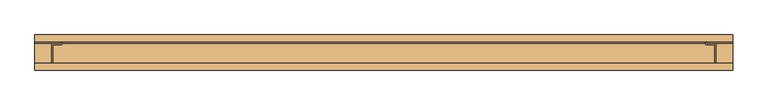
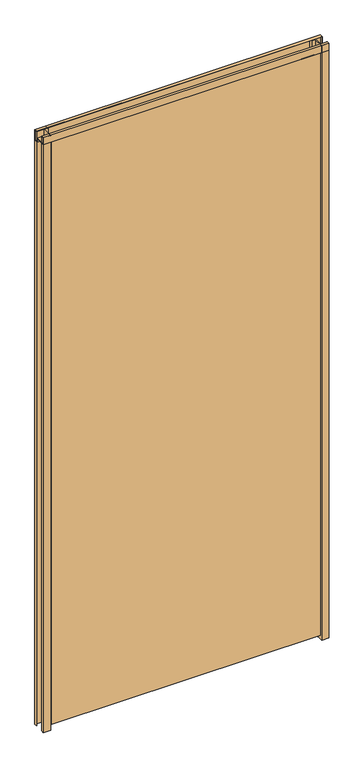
"""IFC4 building model written with IfcOpenShell, lengths in millimetres: door geometry, Puerta Metalica-lisa : PH2-Puerta Metalica lisa simple."""

from ifc_helpers import new_model, si_unit, frame, origin, origin_with_axes, place, context, project, spatial, polyline, outline, extrude, source, transform, mapped, element, save


def door_b94a3739(model_context):
    return source(origin(), model_context, "Body", "SweptSolid", [
        extrude(outline(polyline([(-15.4, 2200.0), (-15.4, 2199.0), (-24.4, 2199.0), (-24.4, 2175.6), (12.6, 2175.6), (12.6, 2162.9), (24.4, 2162.9), (24.4, 2199.0), (15.4, 2199.0), (15.4, 2200.0), (25.4, 2200.0), (25.4, 2161.9), (11.6, 2161.9), (11.6, 2174.6), (-25.4, 2174.6), (-25.4, 2200.0), (-15.4, 2200.0)])), frame((-500.0, 0.0, 0.0), z_axis=(1.0, 0.0, 0.0), x_axis=(0.0, 1.0, 0.0)), (0.0, 0.0, 1.0), 1000.0),
        extrude(outline(polyline([(-438.5, -22.9), (-470.0, -22.9), (-470.0, 8.6), (-438.5, 8.6), (-438.5, -22.9)])), frame((0.0, 0.0, 20.0), z_axis=(0.0, 0.0, 1.0), x_axis=(1.0, 0.0, 0.0)), (0.0, 0.0, 1.0), 2141.9),
        extrude(outline(polyline([(438.5, -22.9), (438.5, 8.6), (470.0, 8.6), (470.0, -22.9), (438.5, -22.9)])), frame((0.0, 0.0, 20.0), z_axis=(0.0, 0.0, 1.0), x_axis=(1.0, 0.0, 0.0)), (0.0, 0.0, 1.0), 2141.9),
        extrude(outline(polyline([(470.0, -25.4), (-470.0, -25.4), (-470.0, -22.9), (470.0, -22.9), (470.0, -25.4)])), frame((0.0, 0.0, 20.0), z_axis=(0.0, 0.0, 1.0), x_axis=(1.0, 0.0, 0.0)), (0.0, 0.0, 1.0), 2154.6),
        extrude(outline(polyline([(-470.0, 11.1), (470.0, 11.1), (470.0, 8.6), (-470.0, 8.6), (-470.0, 11.1)])), frame((0.0, 0.0, 20.0), z_axis=(0.0, 0.0, 1.0), x_axis=(1.0, 0.0, 0.0)), (0.0, 0.0, 1.0), 2154.6),
        extrude(outline(polyline([(-500.0, -15.4), (-499.0, -15.4), (-499.0, -24.4), (-475.6, -24.4), (-475.6, 12.6), (-462.9, 12.6), (-462.9, 24.4), (-499.0, 24.4), (-499.0, 15.4), (-500.0, 15.4), (-500.0, 25.4), (-461.9, 25.4), (-461.9, 11.6), (-474.6, 11.6), (-474.6, -25.4), (-500.0, -25.4), (-500.0, -15.4)])), origin_with_axes(), (0.0, 0.0, 1.0), 2200.0),
        extrude(outline(polyline([(500.0, -15.4), (500.0, -25.4), (474.6, -25.4), (474.6, 11.6), (461.9, 11.6), (461.9, 25.4), (500.0, 25.4), (500.0, 15.4), (499.0, 15.4), (499.0, 24.4), (462.9, 24.4), (462.9, 12.6), (475.6, 12.6), (475.6, -24.4), (499.0, -24.4), (499.0, -15.4), (500.0, -15.4)])), origin_with_axes(), (0.0, 0.0, 1.0), 2200.0),
    ])


if __name__ == "__main__":
    model = new_model("IFC4")
    model_context = context("Model", 3, world=origin())
    ifc_project = project(units=[si_unit("LENGTHUNIT", "METRE", prefix="MILLI")], contexts=[model_context])
    site = spatial("IfcSite", under=ifc_project)
    building = spatial("IfcBuilding", under=site)
    placement = place(None, origin())
    door_shape = door_b94a3739(model_context)
    element("IfcDoor", 1, ObjectType="Puerta Metalica-lisa : PH2-Puerta Metalica lisa simple", at=placement, inside=building, context=model_context, shape_type="MappedRepresentation", body=[
        mapped(door_shape, transform((0.0, 0.0, 0.0), x_axis=(1.0, 0.0, 0.0), y_axis=(0.0, 1.0, 0.0), z_axis=(0.0, 0.0, 1.0))),
    ])
    save(model, "model.ifc")
